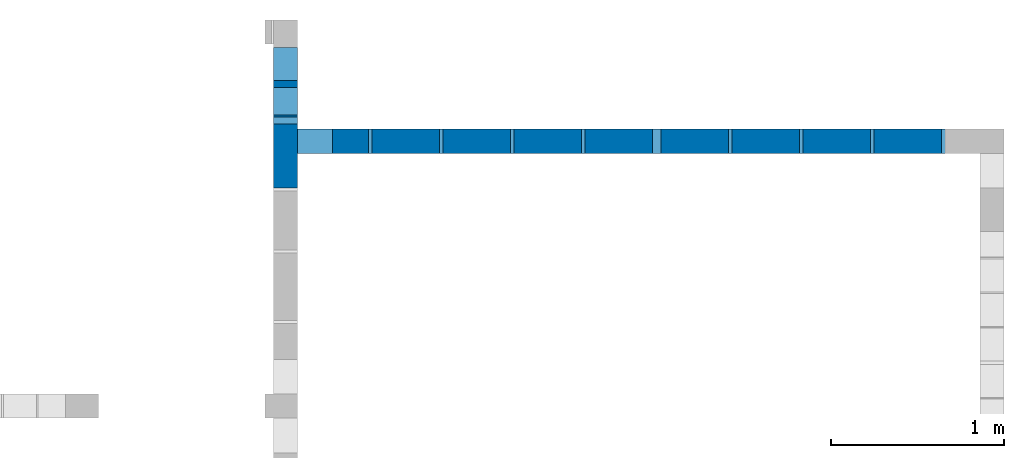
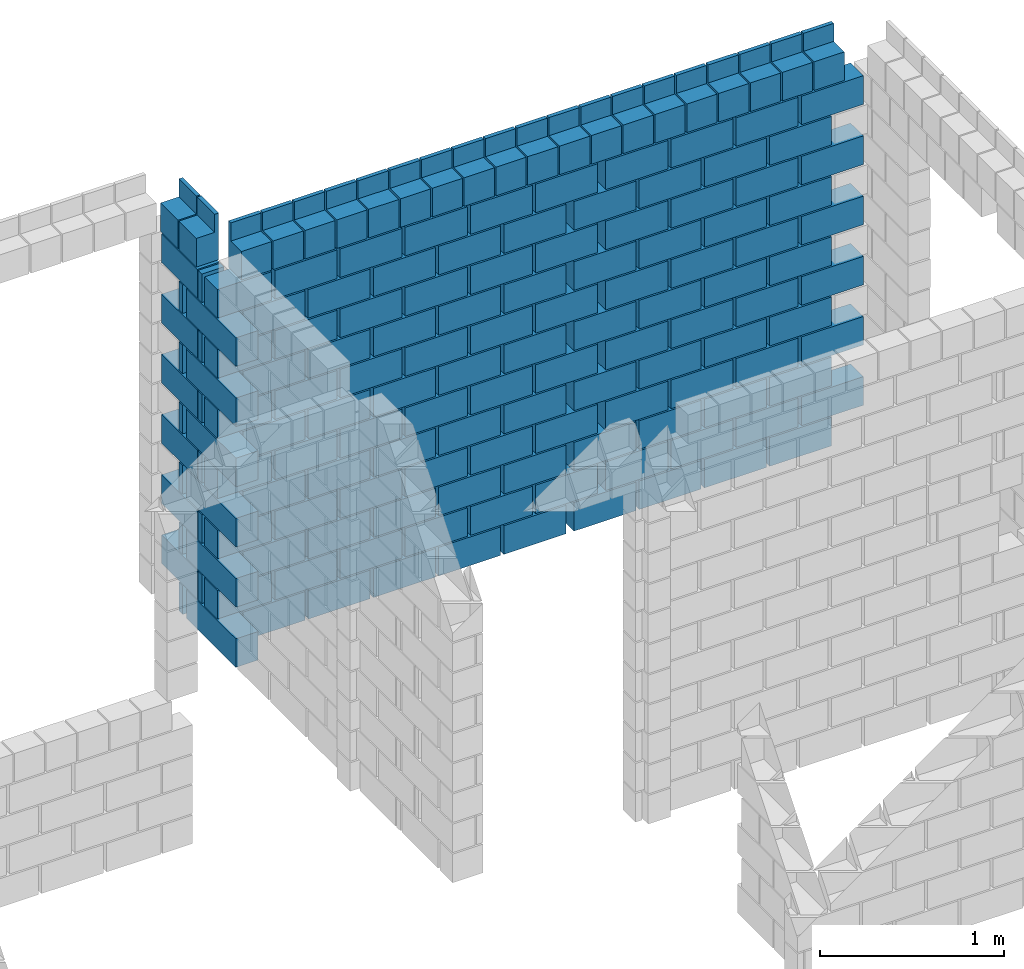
# One storey, part 12 of 12: 3 walls.
"""IFC4 building model written with IfcOpenShell, lengths in centimetres."""

from ifc_helpers import new_model, si_unit, derived_unit, frame, origin, origin_with_axes, origin_2d_with_axis, place, context, project, spatial, rectangle, extrude, element, save


model = new_model("IFC4")

# Units and contexts
model_context = context("Model", 3, precision=1e-05, world=origin_with_axes(), identifier="Body")
ifc_project = project(units=[si_unit("LENGTHUNIT", "METRE", prefix="CENTI"), si_unit("VOLUMEUNIT", "CUBIC_METRE"), si_unit("AREAUNIT", "SQUARE_METRE"), si_unit("POWERUNIT", "WATT"), si_unit("LUMINOUSFLUXUNIT", "LUMEN"), si_unit("ELECTRICCURRENTUNIT", "AMPERE"), si_unit("PRESSUREUNIT", "PASCAL", prefix="KILO"), si_unit("MASSUNIT", "GRAM", prefix="KILO"), si_unit("PLANEANGLEUNIT", "RADIAN"), derived_unit("VOLUMETRICFLOWRATEUNIT", [(si_unit("LENGTHUNIT", "METRE"), 3), (si_unit("TIMEUNIT", "SECOND"), -1)])], contexts=[model_context])

# Site, building, storey
site_placement = place(None, origin_with_axes())
site = spatial("IfcSite", under=ifc_project, at=site_placement)
building_placement = place(site_placement, origin())
building = spatial("IfcBuilding", under=site, at=building_placement)
storey_placement = place(building_placement, origin_with_axes())
storey = spatial("IfcBuildingStorey", under=building, at=storey_placement, Name="PISO", CompositionType="ELEMENT", Elevation=0.0)

# Walls
wall_1_placement = place(storey_placement, frame((294.0, 813.01, 239.0), z_axis=(0.0, 0.0, 1.0), x_axis=(1.0, 0.0, 0.0)))
element("IfcWall", 1, at=wall_1_placement, inside=storey, context=model_context, shape_type="SolidModel", body=[
    extrude(rectangle(XDim=54.0, YDim=14.0, at=origin_2d_with_axis()), frame((-10.0, 0.0, -239.0), z_axis=(0.0, 0.0, 1.0), x_axis=(0.0, 1.0, 0.0)), (0.0, 0.0, 1.0), 19.0),
    extrude(rectangle(XDim=34.0, YDim=14.0, at=origin_2d_with_axis()), frame((0.0, 0.0, -219.0), z_axis=(0.0, 0.0, 1.0), x_axis=(1.0, 0.0, 0.0)), (0.0, 0.0, 1.0), 19.0),
    extrude(rectangle(XDim=54.0, YDim=14.0, at=origin_2d_with_axis()), frame((-10.0, 0.0, -199.0), z_axis=(0.0, 0.0, 1.0), x_axis=(0.0, 1.0, 0.0)), (0.0, 0.0, 1.0), 19.0),
    extrude(rectangle(XDim=34.0, YDim=14.0, at=origin_2d_with_axis()), frame((0.0, 0.0, -179.0), z_axis=(0.0, 0.0, 1.0), x_axis=(1.0, 0.0, 0.0)), (0.0, 0.0, 1.0), 19.0),
    extrude(rectangle(XDim=54.0, YDim=14.0, at=origin_2d_with_axis()), frame((-10.0, 0.0, -159.0), z_axis=(0.0, 0.0, 1.0), x_axis=(0.0, 1.0, 0.0)), (0.0, 0.0, 1.0), 19.0),
    extrude(rectangle(XDim=34.0, YDim=14.0, at=origin_2d_with_axis()), frame((0.0, 0.0, -139.0), z_axis=(0.0, 0.0, 1.0), x_axis=(1.0, 0.0, 0.0)), (0.0, 0.0, 1.0), 19.0),
    extrude(rectangle(XDim=54.0, YDim=14.0, at=origin_2d_with_axis()), frame((-10.0, 0.0, -119.0), z_axis=(0.0, 0.0, 1.0), x_axis=(0.0, 1.0, 0.0)), (0.0, 0.0, 1.0), 19.0),
    extrude(rectangle(XDim=34.0, YDim=14.0, at=origin_2d_with_axis()), frame((0.0, 0.0, -99.0), z_axis=(0.0, 0.0, 1.0), x_axis=(1.0, 0.0, 0.0)), (0.0, 0.0, 1.0), 19.0),
    extrude(rectangle(XDim=54.0, YDim=14.0, at=origin_2d_with_axis()), frame((-10.0, 0.0, -79.0), z_axis=(0.0, 0.0, 1.0), x_axis=(0.0, 1.0, 0.0)), (0.0, 0.0, 1.0), 19.0),
    extrude(rectangle(XDim=34.0, YDim=14.0, at=origin_2d_with_axis()), frame((0.0, 0.0, -59.0), z_axis=(0.0, 0.0, 1.0), x_axis=(1.0, 0.0, 0.0)), (0.0, 0.0, 1.0), 19.0),
    extrude(rectangle(XDim=54.0, YDim=14.0, at=origin_2d_with_axis()), frame((-10.0, 0.0, -39.0), z_axis=(0.0, 0.0, 1.0), x_axis=(0.0, 1.0, 0.0)), (0.0, 0.0, 1.0), 19.0),
    extrude(rectangle(XDim=34.0, YDim=14.0, at=origin_2d_with_axis()), frame((0.0, 0.0, -19.0), z_axis=(0.0, 0.0, 1.0), x_axis=(1.0, 0.0, 0.0)), (0.0, 0.0, 1.0), 19.0),
])
wall_2_placement = place(storey_placement, frame((284.0, 845.51, 271.0), z_axis=(0.0, 0.0, 1.0), x_axis=(1.0, 0.0, 0.0)))
element("IfcWall", 2, at=wall_2_placement, inside=storey, Name="PAR-PISO-13", context=model_context, shape_type="SolidModel", body=[
    extrude(rectangle(XDim=4.0, YDim=14.0, at=origin_2d_with_axis()), frame((0.0, 0.5, -271.0), z_axis=(0.0, 0.0, 1.0), x_axis=(0.0, -1.0, 0.0)), (0.0, 0.0, 1.0), 19.0),
    extrude(rectangle(XDim=39.0, YDim=14.0, at=origin_2d_with_axis()), frame((0.0, 2.0, -251.0), z_axis=(0.0, 0.0, 1.0), x_axis=(0.0, -1.0, 0.0)), (0.0, 0.0, 1.0), 19.0),
    extrude(rectangle(XDim=4.0, YDim=14.0, at=origin_2d_with_axis()), frame((0.0, -20.5, -251.0), z_axis=(0.0, 0.0, 1.0), x_axis=(0.0, -1.0, 0.0)), (0.0, 0.0, 1.0), 19.0),
    extrude(rectangle(XDim=4.0, YDim=14.0, at=origin_2d_with_axis()), frame((0.0, 0.5, -231.0), z_axis=(0.0, 0.0, 1.0), x_axis=(0.0, -1.0, 0.0)), (0.0, 0.0, 1.0), 19.0),
    extrude(rectangle(XDim=39.0, YDim=14.0, at=origin_2d_with_axis()), frame((0.0, 2.0, -211.0), z_axis=(0.0, 0.0, 1.0), x_axis=(0.0, -1.0, 0.0)), (0.0, 0.0, 1.0), 19.0),
    extrude(rectangle(XDim=4.0, YDim=14.0, at=origin_2d_with_axis()), frame((0.0, -20.5, -211.0), z_axis=(0.0, 0.0, 1.0), x_axis=(0.0, -1.0, 0.0)), (0.0, 0.0, 1.0), 19.0),
    extrude(rectangle(XDim=4.0, YDim=14.0, at=origin_2d_with_axis()), frame((0.0, 0.5, -191.0), z_axis=(0.0, 0.0, 1.0), x_axis=(0.0, -1.0, 0.0)), (0.0, 0.0, 1.0), 19.0),
    extrude(rectangle(XDim=39.0, YDim=14.0, at=origin_2d_with_axis()), frame((0.0, 2.0, -171.0), z_axis=(0.0, 0.0, 1.0), x_axis=(0.0, -1.0, 0.0)), (0.0, 0.0, 1.0), 19.0),
    extrude(rectangle(XDim=4.0, YDim=14.0, at=origin_2d_with_axis()), frame((0.0, -20.5, -171.0), z_axis=(0.0, 0.0, 1.0), x_axis=(0.0, -1.0, 0.0)), (0.0, 0.0, 1.0), 19.0),
    extrude(rectangle(XDim=4.0, YDim=14.0, at=origin_2d_with_axis()), frame((0.0, 0.5, -151.0), z_axis=(0.0, 0.0, 1.0), x_axis=(0.0, -1.0, 0.0)), (0.0, 0.0, 1.0), 19.0),
    extrude(rectangle(XDim=39.0, YDim=14.0, at=origin_2d_with_axis()), frame((0.0, 2.0, -131.0), z_axis=(0.0, 0.0, 1.0), x_axis=(0.0, -1.0, 0.0)), (0.0, 0.0, 1.0), 19.0),
    extrude(rectangle(XDim=4.0, YDim=14.0, at=origin_2d_with_axis()), frame((0.0, -20.5, -131.0), z_axis=(0.0, 0.0, 1.0), x_axis=(0.0, -1.0, 0.0)), (0.0, 0.0, 1.0), 19.0),
    extrude(rectangle(XDim=4.0, YDim=14.0, at=origin_2d_with_axis()), frame((0.0, 0.5, -111.0), z_axis=(0.0, 0.0, 1.0), x_axis=(0.0, -1.0, 0.0)), (0.0, 0.0, 1.0), 19.0),
    extrude(rectangle(XDim=39.0, YDim=14.0, at=origin_2d_with_axis()), frame((0.0, 2.0, -91.0), z_axis=(0.0, 0.0, 1.0), x_axis=(0.0, -1.0, 0.0)), (0.0, 0.0, 1.0), 19.0),
    extrude(rectangle(XDim=4.0, YDim=14.0, at=origin_2d_with_axis()), frame((0.0, -20.5, -91.0), z_axis=(0.0, 0.0, 1.0), x_axis=(0.0, -1.0, 0.0)), (0.0, 0.0, 1.0), 19.0),
    extrude(rectangle(XDim=4.0, YDim=14.0, at=origin_2d_with_axis()), frame((0.0, 0.5, -71.0), z_axis=(0.0, 0.0, 1.0), x_axis=(0.0, -1.0, 0.0)), (0.0, 0.0, 1.0), 19.0),
    extrude(rectangle(XDim=39.0, YDim=14.0, at=origin_2d_with_axis()), frame((0.0, 2.0, -51.0), z_axis=(0.0, 0.0, 1.0), x_axis=(0.0, -1.0, 0.0)), (0.0, 0.0, 1.0), 19.0),
    extrude(rectangle(XDim=4.0, YDim=14.0, at=origin_2d_with_axis()), frame((0.0, -20.5, -51.0), z_axis=(0.0, 0.0, 1.0), x_axis=(0.0, -1.0, 0.0)), (0.0, 0.0, 1.0), 19.0),
    extrude(rectangle(XDim=19.0, YDim=2.5, at=origin_2d_with_axis()), frame((5.75, 13.0, -12.0), z_axis=(0.0, 0.0, 1.0), x_axis=(0.0, -1.0, 0.0)), (0.0, 0.0, 1.0), 12.0),
    extrude(rectangle(XDim=19.0, YDim=14.0, at=origin_2d_with_axis()), frame((0.0, 13.0, -31.0), z_axis=(0.0, 0.0, 1.0), x_axis=(0.0, -1.0, 0.0)), (0.0, 0.0, 1.0), 19.0),
    extrude(rectangle(XDim=19.0, YDim=2.5, at=origin_2d_with_axis()), frame((5.75, -7.0, -12.0), z_axis=(0.0, 0.0, 1.0), x_axis=(0.0, -1.0, 0.0)), (0.0, 0.0, 1.0), 12.0),
    extrude(rectangle(XDim=19.0, YDim=14.0, at=origin_2d_with_axis()), frame((0.0, -7.0, -31.0), z_axis=(0.0, 0.0, 1.0), x_axis=(0.0, -1.0, 0.0)), (0.0, 0.0, 1.0), 19.0),
])
wall_3_placement = place(storey_placement, frame((487.505, 813.01, 271.0), z_axis=(0.0, 0.0, 1.0), x_axis=(1.0, 0.0, 0.0)))
element("IfcWall", 3, at=wall_3_placement, inside=storey, Name="PAR-PISO-2", context=model_context, shape_type="SolidModel", body=[
    extrude(rectangle(XDim=39.0, YDim=14.0, at=origin_2d_with_axis()), frame((-175.005, 0.0, -271.0), z_axis=(0.0, 0.0, 1.0), x_axis=(1.0, 0.0, 0.0)), (0.0, 0.0, 1.0), 19.0),
    extrude(rectangle(XDim=39.0, YDim=14.0, at=origin_2d_with_axis()), frame((-134.005, 0.0, -271.0), z_axis=(0.0, 0.0, 1.0), x_axis=(1.0, 0.0, 0.0)), (0.0, 0.0, 1.0), 19.0),
    extrude(rectangle(XDim=39.0, YDim=14.0, at=origin_2d_with_axis()), frame((-93.005, 0.0, -271.0), z_axis=(0.0, 0.0, 1.0), x_axis=(1.0, 0.0, 0.0)), (0.0, 0.0, 1.0), 19.0),
    extrude(rectangle(XDim=39.0, YDim=14.0, at=origin_2d_with_axis()), frame((-52.005, 0.0, -271.0), z_axis=(0.0, 0.0, 1.0), x_axis=(1.0, 0.0, 0.0)), (0.0, 0.0, 1.0), 19.0),
    extrude(rectangle(XDim=39.0, YDim=14.0, at=origin_2d_with_axis()), frame((-11.005, 0.0, -271.0), z_axis=(0.0, 0.0, 1.0), x_axis=(1.0, 0.0, 0.0)), (0.0, 0.0, 1.0), 19.0),
    extrude(rectangle(XDim=39.0, YDim=14.0, at=origin_2d_with_axis()), frame((33.005, 0.0, -271.0), z_axis=(0.0, 0.0, 1.0), x_axis=(1.0, 0.0, 0.0)), (0.0, 0.0, 1.0), 19.0),
    extrude(rectangle(XDim=39.0, YDim=14.0, at=origin_2d_with_axis()), frame((74.005, 0.0, -271.0), z_axis=(0.0, 0.0, 1.0), x_axis=(1.0, 0.0, 0.0)), (0.0, 0.0, 1.0), 19.0),
    extrude(rectangle(XDim=39.0, YDim=14.0, at=origin_2d_with_axis()), frame((115.005, 0.0, -271.0), z_axis=(0.0, 0.0, 1.0), x_axis=(1.0, 0.0, 0.0)), (0.0, 0.0, 1.0), 19.0),
    extrude(rectangle(XDim=39.0, YDim=14.0, at=origin_2d_with_axis()), frame((156.005, 0.0, -271.0), z_axis=(0.0, 0.0, 1.0), x_axis=(1.0, 0.0, 0.0)), (0.0, 0.0, 1.0), 19.0),
    extrude(rectangle(XDim=39.0, YDim=14.0, at=origin_2d_with_axis()), frame((-155.005, 0.0, -251.0), z_axis=(0.0, 0.0, 1.0), x_axis=(1.0, 0.0, 0.0)), (0.0, 0.0, 1.0), 19.0),
    extrude(rectangle(XDim=39.0, YDim=14.0, at=origin_2d_with_axis()), frame((-114.005, 0.0, -251.0), z_axis=(0.0, 0.0, 1.0), x_axis=(1.0, 0.0, 0.0)), (0.0, 0.0, 1.0), 19.0),
    extrude(rectangle(XDim=39.0, YDim=14.0, at=origin_2d_with_axis()), frame((-73.005, 0.0, -251.0), z_axis=(0.0, 0.0, 1.0), x_axis=(1.0, 0.0, 0.0)), (0.0, 0.0, 1.0), 19.0),
    extrude(rectangle(XDim=39.0, YDim=14.0, at=origin_2d_with_axis()), frame((-32.005, 0.0, -251.0), z_axis=(0.0, 0.0, 1.0), x_axis=(1.0, 0.0, 0.0)), (0.0, 0.0, 1.0), 19.0),
    extrude(rectangle(XDim=39.0, YDim=14.0, at=origin_2d_with_axis()), frame((8.995, 0.0, -251.0), z_axis=(0.0, 0.0, 1.0), x_axis=(1.0, 0.0, 0.0)), (0.0, 0.0, 1.0), 19.0),
    extrude(rectangle(XDim=39.0, YDim=14.0, at=origin_2d_with_axis()), frame((53.005, 0.0, -251.0), z_axis=(0.0, 0.0, 1.0), x_axis=(1.0, 0.0, 0.0)), (0.0, 0.0, 1.0), 19.0),
    extrude(rectangle(XDim=39.0, YDim=14.0, at=origin_2d_with_axis()), frame((94.005, 0.0, -251.0), z_axis=(0.0, 0.0, 1.0), x_axis=(1.0, 0.0, 0.0)), (0.0, 0.0, 1.0), 19.0),
    extrude(rectangle(XDim=39.0, YDim=14.0, at=origin_2d_with_axis()), frame((135.005, 0.0, -251.0), z_axis=(0.0, 0.0, 1.0), x_axis=(1.0, 0.0, 0.0)), (0.0, 0.0, 1.0), 19.0),
    extrude(rectangle(XDim=39.0, YDim=14.0, at=origin_2d_with_axis()), frame((176.005, 0.0, -251.0), z_axis=(0.0, 0.0, 1.0), x_axis=(1.0, 0.0, 0.0)), (0.0, 0.0, 1.0), 19.0),
    extrude(rectangle(XDim=39.0, YDim=14.0, at=origin_2d_with_axis()), frame((-175.005, 0.0, -231.0), z_axis=(0.0, 0.0, 1.0), x_axis=(1.0, 0.0, 0.0)), (0.0, 0.0, 1.0), 19.0),
    extrude(rectangle(XDim=39.0, YDim=14.0, at=origin_2d_with_axis()), frame((-134.005, 0.0, -231.0), z_axis=(0.0, 0.0, 1.0), x_axis=(1.0, 0.0, 0.0)), (0.0, 0.0, 1.0), 19.0),
    extrude(rectangle(XDim=39.0, YDim=14.0, at=origin_2d_with_axis()), frame((-93.005, 0.0, -231.0), z_axis=(0.0, 0.0, 1.0), x_axis=(1.0, 0.0, 0.0)), (0.0, 0.0, 1.0), 19.0),
    extrude(rectangle(XDim=39.0, YDim=14.0, at=origin_2d_with_axis()), frame((-52.005, 0.0, -231.0), z_axis=(0.0, 0.0, 1.0), x_axis=(1.0, 0.0, 0.0)), (0.0, 0.0, 1.0), 19.0),
    extrude(rectangle(XDim=39.0, YDim=14.0, at=origin_2d_with_axis()), frame((-11.005, 0.0, -231.0), z_axis=(0.0, 0.0, 1.0), x_axis=(1.0, 0.0, 0.0)), (0.0, 0.0, 1.0), 19.0),
    extrude(rectangle(XDim=39.0, YDim=14.0, at=origin_2d_with_axis()), frame((33.005, 0.0, -231.0), z_axis=(0.0, 0.0, 1.0), x_axis=(1.0, 0.0, 0.0)), (0.0, 0.0, 1.0), 19.0),
    extrude(rectangle(XDim=39.0, YDim=14.0, at=origin_2d_with_axis()), frame((74.005, 0.0, -231.0), z_axis=(0.0, 0.0, 1.0), x_axis=(1.0, 0.0, 0.0)), (0.0, 0.0, 1.0), 19.0),
    extrude(rectangle(XDim=39.0, YDim=14.0, at=origin_2d_with_axis()), frame((115.005, 0.0, -231.0), z_axis=(0.0, 0.0, 1.0), x_axis=(1.0, 0.0, 0.0)), (0.0, 0.0, 1.0), 19.0),
    extrude(rectangle(XDim=39.0, YDim=14.0, at=origin_2d_with_axis()), frame((156.005, 0.0, -231.0), z_axis=(0.0, 0.0, 1.0), x_axis=(1.0, 0.0, 0.0)), (0.0, 0.0, 1.0), 19.0),
    extrude(rectangle(XDim=39.0, YDim=14.0, at=origin_2d_with_axis()), frame((-155.005, 0.0, -211.0), z_axis=(0.0, 0.0, 1.0), x_axis=(1.0, 0.0, 0.0)), (0.0, 0.0, 1.0), 19.0),
    extrude(rectangle(XDim=39.0, YDim=14.0, at=origin_2d_with_axis()), frame((-114.005, 0.0, -211.0), z_axis=(0.0, 0.0, 1.0), x_axis=(1.0, 0.0, 0.0)), (0.0, 0.0, 1.0), 19.0),
    extrude(rectangle(XDim=39.0, YDim=14.0, at=origin_2d_with_axis()), frame((-73.005, 0.0, -211.0), z_axis=(0.0, 0.0, 1.0), x_axis=(1.0, 0.0, 0.0)), (0.0, 0.0, 1.0), 19.0),
    extrude(rectangle(XDim=39.0, YDim=14.0, at=origin_2d_with_axis()), frame((-32.005, 0.0, -211.0), z_axis=(0.0, 0.0, 1.0), x_axis=(1.0, 0.0, 0.0)), (0.0, 0.0, 1.0), 19.0),
    extrude(rectangle(XDim=39.0, YDim=14.0, at=origin_2d_with_axis()), frame((8.995, 0.0, -211.0), z_axis=(0.0, 0.0, 1.0), x_axis=(1.0, 0.0, 0.0)), (0.0, 0.0, 1.0), 19.0),
    extrude(rectangle(XDim=39.0, YDim=14.0, at=origin_2d_with_axis()), frame((53.005, 0.0, -211.0), z_axis=(0.0, 0.0, 1.0), x_axis=(1.0, 0.0, 0.0)), (0.0, 0.0, 1.0), 19.0),
    extrude(rectangle(XDim=39.0, YDim=14.0, at=origin_2d_with_axis()), frame((94.005, 0.0, -211.0), z_axis=(0.0, 0.0, 1.0), x_axis=(1.0, 0.0, 0.0)), (0.0, 0.0, 1.0), 19.0),
    extrude(rectangle(XDim=39.0, YDim=14.0, at=origin_2d_with_axis()), frame((135.005, 0.0, -211.0), z_axis=(0.0, 0.0, 1.0), x_axis=(1.0, 0.0, 0.0)), (0.0, 0.0, 1.0), 19.0),
    extrude(rectangle(XDim=39.0, YDim=14.0, at=origin_2d_with_axis()), frame((176.005, 0.0, -211.0), z_axis=(0.0, 0.0, 1.0), x_axis=(1.0, 0.0, 0.0)), (0.0, 0.0, 1.0), 19.0),
    extrude(rectangle(XDim=39.0, YDim=14.0, at=origin_2d_with_axis()), frame((-175.005, 0.0, -191.0), z_axis=(0.0, 0.0, 1.0), x_axis=(1.0, 0.0, 0.0)), (0.0, 0.0, 1.0), 19.0),
    extrude(rectangle(XDim=39.0, YDim=14.0, at=origin_2d_with_axis()), frame((-134.005, 0.0, -191.0), z_axis=(0.0, 0.0, 1.0), x_axis=(1.0, 0.0, 0.0)), (0.0, 0.0, 1.0), 19.0),
    extrude(rectangle(XDim=39.0, YDim=14.0, at=origin_2d_with_axis()), frame((-93.005, 0.0, -191.0), z_axis=(0.0, 0.0, 1.0), x_axis=(1.0, 0.0, 0.0)), (0.0, 0.0, 1.0), 19.0),
    extrude(rectangle(XDim=39.0, YDim=14.0, at=origin_2d_with_axis()), frame((-52.005, 0.0, -191.0), z_axis=(0.0, 0.0, 1.0), x_axis=(1.0, 0.0, 0.0)), (0.0, 0.0, 1.0), 19.0),
    extrude(rectangle(XDim=39.0, YDim=14.0, at=origin_2d_with_axis()), frame((-11.005, 0.0, -191.0), z_axis=(0.0, 0.0, 1.0), x_axis=(1.0, 0.0, 0.0)), (0.0, 0.0, 1.0), 19.0),
    extrude(rectangle(XDim=39.0, YDim=14.0, at=origin_2d_with_axis()), frame((33.005, 0.0, -191.0), z_axis=(0.0, 0.0, 1.0), x_axis=(1.0, 0.0, 0.0)), (0.0, 0.0, 1.0), 19.0),
    extrude(rectangle(XDim=39.0, YDim=14.0, at=origin_2d_with_axis()), frame((74.005, 0.0, -191.0), z_axis=(0.0, 0.0, 1.0), x_axis=(1.0, 0.0, 0.0)), (0.0, 0.0, 1.0), 19.0),
    extrude(rectangle(XDim=39.0, YDim=14.0, at=origin_2d_with_axis()), frame((115.005, 0.0, -191.0), z_axis=(0.0, 0.0, 1.0), x_axis=(1.0, 0.0, 0.0)), (0.0, 0.0, 1.0), 19.0),
    extrude(rectangle(XDim=39.0, YDim=14.0, at=origin_2d_with_axis()), frame((156.005, 0.0, -191.0), z_axis=(0.0, 0.0, 1.0), x_axis=(1.0, 0.0, 0.0)), (0.0, 0.0, 1.0), 19.0),
    extrude(rectangle(XDim=39.0, YDim=14.0, at=origin_2d_with_axis()), frame((-155.005, 0.0, -171.0), z_axis=(0.0, 0.0, 1.0), x_axis=(1.0, 0.0, 0.0)), (0.0, 0.0, 1.0), 19.0),
    extrude(rectangle(XDim=39.0, YDim=14.0, at=origin_2d_with_axis()), frame((-114.005, 0.0, -171.0), z_axis=(0.0, 0.0, 1.0), x_axis=(1.0, 0.0, 0.0)), (0.0, 0.0, 1.0), 19.0),
    extrude(rectangle(XDim=39.0, YDim=14.0, at=origin_2d_with_axis()), frame((-73.005, 0.0, -171.0), z_axis=(0.0, 0.0, 1.0), x_axis=(1.0, 0.0, 0.0)), (0.0, 0.0, 1.0), 19.0),
    extrude(rectangle(XDim=39.0, YDim=14.0, at=origin_2d_with_axis()), frame((-32.005, 0.0, -171.0), z_axis=(0.0, 0.0, 1.0), x_axis=(1.0, 0.0, 0.0)), (0.0, 0.0, 1.0), 19.0),
    extrude(rectangle(XDim=39.0, YDim=14.0, at=origin_2d_with_axis()), frame((8.995, 0.0, -171.0), z_axis=(0.0, 0.0, 1.0), x_axis=(1.0, 0.0, 0.0)), (0.0, 0.0, 1.0), 19.0),
    extrude(rectangle(XDim=39.0, YDim=14.0, at=origin_2d_with_axis()), frame((53.005, 0.0, -171.0), z_axis=(0.0, 0.0, 1.0), x_axis=(1.0, 0.0, 0.0)), (0.0, 0.0, 1.0), 19.0),
    extrude(rectangle(XDim=39.0, YDim=14.0, at=origin_2d_with_axis()), frame((94.005, 0.0, -171.0), z_axis=(0.0, 0.0, 1.0), x_axis=(1.0, 0.0, 0.0)), (0.0, 0.0, 1.0), 19.0),
    extrude(rectangle(XDim=39.0, YDim=14.0, at=origin_2d_with_axis()), frame((135.005, 0.0, -171.0), z_axis=(0.0, 0.0, 1.0), x_axis=(1.0, 0.0, 0.0)), (0.0, 0.0, 1.0), 19.0),
    extrude(rectangle(XDim=39.0, YDim=14.0, at=origin_2d_with_axis()), frame((176.005, 0.0, -171.0), z_axis=(0.0, 0.0, 1.0), x_axis=(1.0, 0.0, 0.0)), (0.0, 0.0, 1.0), 19.0),
    extrude(rectangle(XDim=39.0, YDim=14.0, at=origin_2d_with_axis()), frame((-175.005, 0.0, -151.0), z_axis=(0.0, 0.0, 1.0), x_axis=(1.0, 0.0, 0.0)), (0.0, 0.0, 1.0), 19.0),
    extrude(rectangle(XDim=39.0, YDim=14.0, at=origin_2d_with_axis()), frame((-134.005, 0.0, -151.0), z_axis=(0.0, 0.0, 1.0), x_axis=(1.0, 0.0, 0.0)), (0.0, 0.0, 1.0), 19.0),
    extrude(rectangle(XDim=39.0, YDim=14.0, at=origin_2d_with_axis()), frame((-93.005, 0.0, -151.0), z_axis=(0.0, 0.0, 1.0), x_axis=(1.0, 0.0, 0.0)), (0.0, 0.0, 1.0), 19.0),
    extrude(rectangle(XDim=39.0, YDim=14.0, at=origin_2d_with_axis()), frame((-52.005, 0.0, -151.0), z_axis=(0.0, 0.0, 1.0), x_axis=(1.0, 0.0, 0.0)), (0.0, 0.0, 1.0), 19.0),
    extrude(rectangle(XDim=39.0, YDim=14.0, at=origin_2d_with_axis()), frame((-11.005, 0.0, -151.0), z_axis=(0.0, 0.0, 1.0), x_axis=(1.0, 0.0, 0.0)), (0.0, 0.0, 1.0), 19.0),
    extrude(rectangle(XDim=39.0, YDim=14.0, at=origin_2d_with_axis()), frame((33.005, 0.0, -151.0), z_axis=(0.0, 0.0, 1.0), x_axis=(1.0, 0.0, 0.0)), (0.0, 0.0, 1.0), 19.0),
    extrude(rectangle(XDim=39.0, YDim=14.0, at=origin_2d_with_axis()), frame((74.005, 0.0, -151.0), z_axis=(0.0, 0.0, 1.0), x_axis=(1.0, 0.0, 0.0)), (0.0, 0.0, 1.0), 19.0),
    extrude(rectangle(XDim=39.0, YDim=14.0, at=origin_2d_with_axis()), frame((115.005, 0.0, -151.0), z_axis=(0.0, 0.0, 1.0), x_axis=(1.0, 0.0, 0.0)), (0.0, 0.0, 1.0), 19.0),
    extrude(rectangle(XDim=39.0, YDim=14.0, at=origin_2d_with_axis()), frame((156.005, 0.0, -151.0), z_axis=(0.0, 0.0, 1.0), x_axis=(1.0, 0.0, 0.0)), (0.0, 0.0, 1.0), 19.0),
    extrude(rectangle(XDim=39.0, YDim=14.0, at=origin_2d_with_axis()), frame((-155.005, 0.0, -131.0), z_axis=(0.0, 0.0, 1.0), x_axis=(1.0, 0.0, 0.0)), (0.0, 0.0, 1.0), 19.0),
    extrude(rectangle(XDim=39.0, YDim=14.0, at=origin_2d_with_axis()), frame((-114.005, 0.0, -131.0), z_axis=(0.0, 0.0, 1.0), x_axis=(1.0, 0.0, 0.0)), (0.0, 0.0, 1.0), 19.0),
    extrude(rectangle(XDim=39.0, YDim=14.0, at=origin_2d_with_axis()), frame((-73.005, 0.0, -131.0), z_axis=(0.0, 0.0, 1.0), x_axis=(1.0, 0.0, 0.0)), (0.0, 0.0, 1.0), 19.0),
    extrude(rectangle(XDim=39.0, YDim=14.0, at=origin_2d_with_axis()), frame((-32.005, 0.0, -131.0), z_axis=(0.0, 0.0, 1.0), x_axis=(1.0, 0.0, 0.0)), (0.0, 0.0, 1.0), 19.0),
    extrude(rectangle(XDim=39.0, YDim=14.0, at=origin_2d_with_axis()), frame((8.995, 0.0, -131.0), z_axis=(0.0, 0.0, 1.0), x_axis=(1.0, 0.0, 0.0)), (0.0, 0.0, 1.0), 19.0),
    extrude(rectangle(XDim=39.0, YDim=14.0, at=origin_2d_with_axis()), frame((53.005, 0.0, -131.0), z_axis=(0.0, 0.0, 1.0), x_axis=(1.0, 0.0, 0.0)), (0.0, 0.0, 1.0), 19.0),
    extrude(rectangle(XDim=39.0, YDim=14.0, at=origin_2d_with_axis()), frame((94.005, 0.0, -131.0), z_axis=(0.0, 0.0, 1.0), x_axis=(1.0, 0.0, 0.0)), (0.0, 0.0, 1.0), 19.0),
    extrude(rectangle(XDim=39.0, YDim=14.0, at=origin_2d_with_axis()), frame((135.005, 0.0, -131.0), z_axis=(0.0, 0.0, 1.0), x_axis=(1.0, 0.0, 0.0)), (0.0, 0.0, 1.0), 19.0),
    extrude(rectangle(XDim=39.0, YDim=14.0, at=origin_2d_with_axis()), frame((176.005, 0.0, -131.0), z_axis=(0.0, 0.0, 1.0), x_axis=(1.0, 0.0, 0.0)), (0.0, 0.0, 1.0), 19.0),
    extrude(rectangle(XDim=39.0, YDim=14.0, at=origin_2d_with_axis()), frame((-175.005, 0.0, -111.0), z_axis=(0.0, 0.0, 1.0), x_axis=(1.0, 0.0, 0.0)), (0.0, 0.0, 1.0), 19.0),
    extrude(rectangle(XDim=39.0, YDim=14.0, at=origin_2d_with_axis()), frame((-134.005, 0.0, -111.0), z_axis=(0.0, 0.0, 1.0), x_axis=(1.0, 0.0, 0.0)), (0.0, 0.0, 1.0), 19.0),
    extrude(rectangle(XDim=39.0, YDim=14.0, at=origin_2d_with_axis()), frame((-93.005, 0.0, -111.0), z_axis=(0.0, 0.0, 1.0), x_axis=(1.0, 0.0, 0.0)), (0.0, 0.0, 1.0), 19.0),
    extrude(rectangle(XDim=39.0, YDim=14.0, at=origin_2d_with_axis()), frame((-52.005, 0.0, -111.0), z_axis=(0.0, 0.0, 1.0), x_axis=(1.0, 0.0, 0.0)), (0.0, 0.0, 1.0), 19.0),
    extrude(rectangle(XDim=39.0, YDim=14.0, at=origin_2d_with_axis()), frame((-11.005, 0.0, -111.0), z_axis=(0.0, 0.0, 1.0), x_axis=(1.0, 0.0, 0.0)), (0.0, 0.0, 1.0), 19.0),
    extrude(rectangle(XDim=39.0, YDim=14.0, at=origin_2d_with_axis()), frame((33.005, 0.0, -111.0), z_axis=(0.0, 0.0, 1.0), x_axis=(1.0, 0.0, 0.0)), (0.0, 0.0, 1.0), 19.0),
    extrude(rectangle(XDim=39.0, YDim=14.0, at=origin_2d_with_axis()), frame((74.005, 0.0, -111.0), z_axis=(0.0, 0.0, 1.0), x_axis=(1.0, 0.0, 0.0)), (0.0, 0.0, 1.0), 19.0),
    extrude(rectangle(XDim=39.0, YDim=14.0, at=origin_2d_with_axis()), frame((115.005, 0.0, -111.0), z_axis=(0.0, 0.0, 1.0), x_axis=(1.0, 0.0, 0.0)), (0.0, 0.0, 1.0), 19.0),
    extrude(rectangle(XDim=39.0, YDim=14.0, at=origin_2d_with_axis()), frame((156.005, 0.0, -111.0), z_axis=(0.0, 0.0, 1.0), x_axis=(1.0, 0.0, 0.0)), (0.0, 0.0, 1.0), 19.0),
    extrude(rectangle(XDim=39.0, YDim=14.0, at=origin_2d_with_axis()), frame((-155.005, 0.0, -91.0), z_axis=(0.0, 0.0, 1.0), x_axis=(1.0, 0.0, 0.0)), (0.0, 0.0, 1.0), 19.0),
    extrude(rectangle(XDim=39.0, YDim=14.0, at=origin_2d_with_axis()), frame((-114.005, 0.0, -91.0), z_axis=(0.0, 0.0, 1.0), x_axis=(1.0, 0.0, 0.0)), (0.0, 0.0, 1.0), 19.0),
    extrude(rectangle(XDim=39.0, YDim=14.0, at=origin_2d_with_axis()), frame((-73.005, 0.0, -91.0), z_axis=(0.0, 0.0, 1.0), x_axis=(1.0, 0.0, 0.0)), (0.0, 0.0, 1.0), 19.0),
    extrude(rectangle(XDim=39.0, YDim=14.0, at=origin_2d_with_axis()), frame((-32.005, 0.0, -91.0), z_axis=(0.0, 0.0, 1.0), x_axis=(1.0, 0.0, 0.0)), (0.0, 0.0, 1.0), 19.0),
    extrude(rectangle(XDim=39.0, YDim=14.0, at=origin_2d_with_axis()), frame((8.995, 0.0, -91.0), z_axis=(0.0, 0.0, 1.0), x_axis=(1.0, 0.0, 0.0)), (0.0, 0.0, 1.0), 19.0),
    extrude(rectangle(XDim=39.0, YDim=14.0, at=origin_2d_with_axis()), frame((53.005, 0.0, -91.0), z_axis=(0.0, 0.0, 1.0), x_axis=(1.0, 0.0, 0.0)), (0.0, 0.0, 1.0), 19.0),
    extrude(rectangle(XDim=39.0, YDim=14.0, at=origin_2d_with_axis()), frame((94.005, 0.0, -91.0), z_axis=(0.0, 0.0, 1.0), x_axis=(1.0, 0.0, 0.0)), (0.0, 0.0, 1.0), 19.0),
    extrude(rectangle(XDim=39.0, YDim=14.0, at=origin_2d_with_axis()), frame((135.005, 0.0, -91.0), z_axis=(0.0, 0.0, 1.0), x_axis=(1.0, 0.0, 0.0)), (0.0, 0.0, 1.0), 19.0),
    extrude(rectangle(XDim=39.0, YDim=14.0, at=origin_2d_with_axis()), frame((176.005, 0.0, -91.0), z_axis=(0.0, 0.0, 1.0), x_axis=(1.0, 0.0, 0.0)), (0.0, 0.0, 1.0), 19.0),
    extrude(rectangle(XDim=39.0, YDim=14.0, at=origin_2d_with_axis()), frame((-175.005, 0.0, -71.0), z_axis=(0.0, 0.0, 1.0), x_axis=(1.0, 0.0, 0.0)), (0.0, 0.0, 1.0), 19.0),
    extrude(rectangle(XDim=39.0, YDim=14.0, at=origin_2d_with_axis()), frame((-134.005, 0.0, -71.0), z_axis=(0.0, 0.0, 1.0), x_axis=(1.0, 0.0, 0.0)), (0.0, 0.0, 1.0), 19.0),
    extrude(rectangle(XDim=39.0, YDim=14.0, at=origin_2d_with_axis()), frame((-93.005, 0.0, -71.0), z_axis=(0.0, 0.0, 1.0), x_axis=(1.0, 0.0, 0.0)), (0.0, 0.0, 1.0), 19.0),
    extrude(rectangle(XDim=39.0, YDim=14.0, at=origin_2d_with_axis()), frame((-52.005, 0.0, -71.0), z_axis=(0.0, 0.0, 1.0), x_axis=(1.0, 0.0, 0.0)), (0.0, 0.0, 1.0), 19.0),
    extrude(rectangle(XDim=39.0, YDim=14.0, at=origin_2d_with_axis()), frame((-11.005, 0.0, -71.0), z_axis=(0.0, 0.0, 1.0), x_axis=(1.0, 0.0, 0.0)), (0.0, 0.0, 1.0), 19.0),
    extrude(rectangle(XDim=39.0, YDim=14.0, at=origin_2d_with_axis()), frame((33.005, 0.0, -71.0), z_axis=(0.0, 0.0, 1.0), x_axis=(1.0, 0.0, 0.0)), (0.0, 0.0, 1.0), 19.0),
    extrude(rectangle(XDim=39.0, YDim=14.0, at=origin_2d_with_axis()), frame((74.005, 0.0, -71.0), z_axis=(0.0, 0.0, 1.0), x_axis=(1.0, 0.0, 0.0)), (0.0, 0.0, 1.0), 19.0),
    extrude(rectangle(XDim=39.0, YDim=14.0, at=origin_2d_with_axis()), frame((115.005, 0.0, -71.0), z_axis=(0.0, 0.0, 1.0), x_axis=(1.0, 0.0, 0.0)), (0.0, 0.0, 1.0), 19.0),
    extrude(rectangle(XDim=39.0, YDim=14.0, at=origin_2d_with_axis()), frame((156.005, 0.0, -71.0), z_axis=(0.0, 0.0, 1.0), x_axis=(1.0, 0.0, 0.0)), (0.0, 0.0, 1.0), 19.0),
    extrude(rectangle(XDim=39.0, YDim=14.0, at=origin_2d_with_axis()), frame((-155.005, 0.0, -51.0), z_axis=(0.0, 0.0, 1.0), x_axis=(1.0, 0.0, 0.0)), (0.0, 0.0, 1.0), 19.0),
    extrude(rectangle(XDim=39.0, YDim=14.0, at=origin_2d_with_axis()), frame((-114.005, 0.0, -51.0), z_axis=(0.0, 0.0, 1.0), x_axis=(1.0, 0.0, 0.0)), (0.0, 0.0, 1.0), 19.0),
    extrude(rectangle(XDim=39.0, YDim=14.0, at=origin_2d_with_axis()), frame((-73.005, 0.0, -51.0), z_axis=(0.0, 0.0, 1.0), x_axis=(1.0, 0.0, 0.0)), (0.0, 0.0, 1.0), 19.0),
    extrude(rectangle(XDim=39.0, YDim=14.0, at=origin_2d_with_axis()), frame((-32.005, 0.0, -51.0), z_axis=(0.0, 0.0, 1.0), x_axis=(1.0, 0.0, 0.0)), (0.0, 0.0, 1.0), 19.0),
    extrude(rectangle(XDim=39.0, YDim=14.0, at=origin_2d_with_axis()), frame((8.995, 0.0, -51.0), z_axis=(0.0, 0.0, 1.0), x_axis=(1.0, 0.0, 0.0)), (0.0, 0.0, 1.0), 19.0),
    extrude(rectangle(XDim=39.0, YDim=14.0, at=origin_2d_with_axis()), frame((53.005, 0.0, -51.0), z_axis=(0.0, 0.0, 1.0), x_axis=(1.0, 0.0, 0.0)), (0.0, 0.0, 1.0), 19.0),
    extrude(rectangle(XDim=39.0, YDim=14.0, at=origin_2d_with_axis()), frame((94.005, 0.0, -51.0), z_axis=(0.0, 0.0, 1.0), x_axis=(1.0, 0.0, 0.0)), (0.0, 0.0, 1.0), 19.0),
    extrude(rectangle(XDim=39.0, YDim=14.0, at=origin_2d_with_axis()), frame((135.005, 0.0, -51.0), z_axis=(0.0, 0.0, 1.0), x_axis=(1.0, 0.0, 0.0)), (0.0, 0.0, 1.0), 19.0),
    extrude(rectangle(XDim=39.0, YDim=14.0, at=origin_2d_with_axis()), frame((176.005, 0.0, -51.0), z_axis=(0.0, 0.0, 1.0), x_axis=(1.0, 0.0, 0.0)), (0.0, 0.0, 1.0), 19.0),
    extrude(rectangle(XDim=19.0, YDim=2.5, at=origin_2d_with_axis()), frame((-186.005, 5.75, -12.0), z_axis=(0.0, 0.0, 1.0), x_axis=(1.0, 0.0, 0.0)), (0.0, 0.0, 1.0), 12.0),
    extrude(rectangle(XDim=19.0, YDim=14.0, at=origin_2d_with_axis()), frame((-186.005, 0.0, -31.0), z_axis=(0.0, 0.0, 1.0), x_axis=(1.0, 0.0, 0.0)), (0.0, 0.0, 1.0), 19.0),
    extrude(rectangle(XDim=19.0, YDim=2.5, at=origin_2d_with_axis()), frame((-166.005, 5.75, -12.0), z_axis=(0.0, 0.0, 1.0), x_axis=(1.0, 0.0, 0.0)), (0.0, 0.0, 1.0), 12.0),
    extrude(rectangle(XDim=19.0, YDim=14.0, at=origin_2d_with_axis()), frame((-166.005, 0.0, -31.0), z_axis=(0.0, 0.0, 1.0), x_axis=(1.0, 0.0, 0.0)), (0.0, 0.0, 1.0), 19.0),
    extrude(rectangle(XDim=19.0, YDim=2.5, at=origin_2d_with_axis()), frame((-146.005, 5.75, -12.0), z_axis=(0.0, 0.0, 1.0), x_axis=(1.0, 0.0, 0.0)), (0.0, 0.0, 1.0), 12.0),
    extrude(rectangle(XDim=19.0, YDim=14.0, at=origin_2d_with_axis()), frame((-146.005, 0.0, -31.0), z_axis=(0.0, 0.0, 1.0), x_axis=(1.0, 0.0, 0.0)), (0.0, 0.0, 1.0), 19.0),
    extrude(rectangle(XDim=19.0, YDim=2.5, at=origin_2d_with_axis()), frame((-126.005, 5.75, -12.0), z_axis=(0.0, 0.0, 1.0), x_axis=(1.0, 0.0, 0.0)), (0.0, 0.0, 1.0), 12.0),
    extrude(rectangle(XDim=19.0, YDim=14.0, at=origin_2d_with_axis()), frame((-126.005, 0.0, -31.0), z_axis=(0.0, 0.0, 1.0), x_axis=(1.0, 0.0, 0.0)), (0.0, 0.0, 1.0), 19.0),
    extrude(rectangle(XDim=19.0, YDim=2.5, at=origin_2d_with_axis()), frame((-106.005, 5.75, -12.0), z_axis=(0.0, 0.0, 1.0), x_axis=(1.0, 0.0, 0.0)), (0.0, 0.0, 1.0), 12.0),
    extrude(rectangle(XDim=19.0, YDim=14.0, at=origin_2d_with_axis()), frame((-106.005, 0.0, -31.0), z_axis=(0.0, 0.0, 1.0), x_axis=(1.0, 0.0, 0.0)), (0.0, 0.0, 1.0), 19.0),
    extrude(rectangle(XDim=19.0, YDim=2.5, at=origin_2d_with_axis()), frame((-86.005, 5.75, -12.0), z_axis=(0.0, 0.0, 1.0), x_axis=(1.0, 0.0, 0.0)), (0.0, 0.0, 1.0), 12.0),
    extrude(rectangle(XDim=19.0, YDim=14.0, at=origin_2d_with_axis()), frame((-86.005, 0.0, -31.0), z_axis=(0.0, 0.0, 1.0), x_axis=(1.0, 0.0, 0.0)), (0.0, 0.0, 1.0), 19.0),
    extrude(rectangle(XDim=19.0, YDim=2.5, at=origin_2d_with_axis()), frame((-66.005, 5.75, -12.0), z_axis=(0.0, 0.0, 1.0), x_axis=(1.0, 0.0, 0.0)), (0.0, 0.0, 1.0), 12.0),
    extrude(rectangle(XDim=19.0, YDim=14.0, at=origin_2d_with_axis()), frame((-66.005, 0.0, -31.0), z_axis=(0.0, 0.0, 1.0), x_axis=(1.0, 0.0, 0.0)), (0.0, 0.0, 1.0), 19.0),
    extrude(rectangle(XDim=19.0, YDim=2.5, at=origin_2d_with_axis()), frame((-46.005, 5.75, -12.0), z_axis=(0.0, 0.0, 1.0), x_axis=(1.0, 0.0, 0.0)), (0.0, 0.0, 1.0), 12.0),
    extrude(rectangle(XDim=19.0, YDim=14.0, at=origin_2d_with_axis()), frame((-46.005, 0.0, -31.0), z_axis=(0.0, 0.0, 1.0), x_axis=(1.0, 0.0, 0.0)), (0.0, 0.0, 1.0), 19.0),
    extrude(rectangle(XDim=19.0, YDim=2.5, at=origin_2d_with_axis()), frame((-26.005, 5.75, -12.0), z_axis=(0.0, 0.0, 1.0), x_axis=(1.0, 0.0, 0.0)), (0.0, 0.0, 1.0), 12.0),
    extrude(rectangle(XDim=19.0, YDim=14.0, at=origin_2d_with_axis()), frame((-26.005, 0.0, -31.0), z_axis=(0.0, 0.0, 1.0), x_axis=(1.0, 0.0, 0.0)), (0.0, 0.0, 1.0), 19.0),
    extrude(rectangle(XDim=19.0, YDim=2.5, at=origin_2d_with_axis()), frame((-6.005, 5.75, -12.0), z_axis=(0.0, 0.0, 1.0), x_axis=(1.0, 0.0, 0.0)), (0.0, 0.0, 1.0), 12.0),
    extrude(rectangle(XDim=19.0, YDim=14.0, at=origin_2d_with_axis()), frame((-6.005, 0.0, -31.0), z_axis=(0.0, 0.0, 1.0), x_axis=(1.0, 0.0, 0.0)), (0.0, 0.0, 1.0), 19.0),
    extrude(rectangle(XDim=19.0, YDim=2.5, at=origin_2d_with_axis()), frame((13.995, 5.75, -12.0), z_axis=(0.0, 0.0, 1.0), x_axis=(1.0, 0.0, 0.0)), (0.0, 0.0, 1.0), 12.0),
    extrude(rectangle(XDim=19.0, YDim=14.0, at=origin_2d_with_axis()), frame((13.995, 0.0, -31.0), z_axis=(0.0, 0.0, 1.0), x_axis=(1.0, 0.0, 0.0)), (0.0, 0.0, 1.0), 19.0),
    extrude(rectangle(XDim=19.0, YDim=2.5, at=origin_2d_with_axis()), frame((33.995, 5.75, -12.0), z_axis=(0.0, 0.0, 1.0), x_axis=(1.0, 0.0, 0.0)), (0.0, 0.0, 1.0), 12.0),
    extrude(rectangle(XDim=19.0, YDim=14.0, at=origin_2d_with_axis()), frame((33.995, 0.0, -31.0), z_axis=(0.0, 0.0, 1.0), x_axis=(1.0, 0.0, 0.0)), (0.0, 0.0, 1.0), 19.0),
    extrude(rectangle(XDim=19.0, YDim=2.5, at=origin_2d_with_axis()), frame((53.995, 5.75, -12.0), z_axis=(0.0, 0.0, 1.0), x_axis=(1.0, 0.0, 0.0)), (0.0, 0.0, 1.0), 12.0),
    extrude(rectangle(XDim=19.0, YDim=14.0, at=origin_2d_with_axis()), frame((53.995, 0.0, -31.0), z_axis=(0.0, 0.0, 1.0), x_axis=(1.0, 0.0, 0.0)), (0.0, 0.0, 1.0), 19.0),
    extrude(rectangle(XDim=19.0, YDim=2.5, at=origin_2d_with_axis()), frame((73.995, 5.75, -12.0), z_axis=(0.0, 0.0, 1.0), x_axis=(1.0, 0.0, 0.0)), (0.0, 0.0, 1.0), 12.0),
    extrude(rectangle(XDim=19.0, YDim=14.0, at=origin_2d_with_axis()), frame((73.995, 0.0, -31.0), z_axis=(0.0, 0.0, 1.0), x_axis=(1.0, 0.0, 0.0)), (0.0, 0.0, 1.0), 19.0),
    extrude(rectangle(XDim=19.0, YDim=2.5, at=origin_2d_with_axis()), frame((93.995, 5.75, -12.0), z_axis=(0.0, 0.0, 1.0), x_axis=(1.0, 0.0, 0.0)), (0.0, 0.0, 1.0), 12.0),
    extrude(rectangle(XDim=19.0, YDim=14.0, at=origin_2d_with_axis()), frame((93.995, 0.0, -31.0), z_axis=(0.0, 0.0, 1.0), x_axis=(1.0, 0.0, 0.0)), (0.0, 0.0, 1.0), 19.0),
    extrude(rectangle(XDim=19.0, YDim=2.5, at=origin_2d_with_axis()), frame((113.995, 5.75, -12.0), z_axis=(0.0, 0.0, 1.0), x_axis=(1.0, 0.0, 0.0)), (0.0, 0.0, 1.0), 12.0),
    extrude(rectangle(XDim=19.0, YDim=14.0, at=origin_2d_with_axis()), frame((113.995, 0.0, -31.0), z_axis=(0.0, 0.0, 1.0), x_axis=(1.0, 0.0, 0.0)), (0.0, 0.0, 1.0), 19.0),
    extrude(rectangle(XDim=19.0, YDim=2.5, at=origin_2d_with_axis()), frame((133.995, 5.75, -12.0), z_axis=(0.0, 0.0, 1.0), x_axis=(1.0, 0.0, 0.0)), (0.0, 0.0, 1.0), 12.0),
    extrude(rectangle(XDim=19.0, YDim=14.0, at=origin_2d_with_axis()), frame((133.995, 0.0, -31.0), z_axis=(0.0, 0.0, 1.0), x_axis=(1.0, 0.0, 0.0)), (0.0, 0.0, 1.0), 19.0),
    extrude(rectangle(XDim=19.0, YDim=2.5, at=origin_2d_with_axis()), frame((153.995, 5.75, -12.0), z_axis=(0.0, 0.0, 1.0), x_axis=(1.0, 0.0, 0.0)), (0.0, 0.0, 1.0), 12.0),
    extrude(rectangle(XDim=19.0, YDim=14.0, at=origin_2d_with_axis()), frame((153.995, 0.0, -31.0), z_axis=(0.0, 0.0, 1.0), x_axis=(1.0, 0.0, 0.0)), (0.0, 0.0, 1.0), 19.0),
    extrude(rectangle(XDim=19.0, YDim=2.5, at=origin_2d_with_axis()), frame((173.995, 5.75, -12.0), z_axis=(0.0, 0.0, 1.0), x_axis=(1.0, 0.0, 0.0)), (0.0, 0.0, 1.0), 12.0),
    extrude(rectangle(XDim=19.0, YDim=14.0, at=origin_2d_with_axis()), frame((173.995, 0.0, -31.0), z_axis=(0.0, 0.0, 1.0), x_axis=(1.0, 0.0, 0.0)), (0.0, 0.0, 1.0), 19.0),
])

save(model, "model.ifc")
